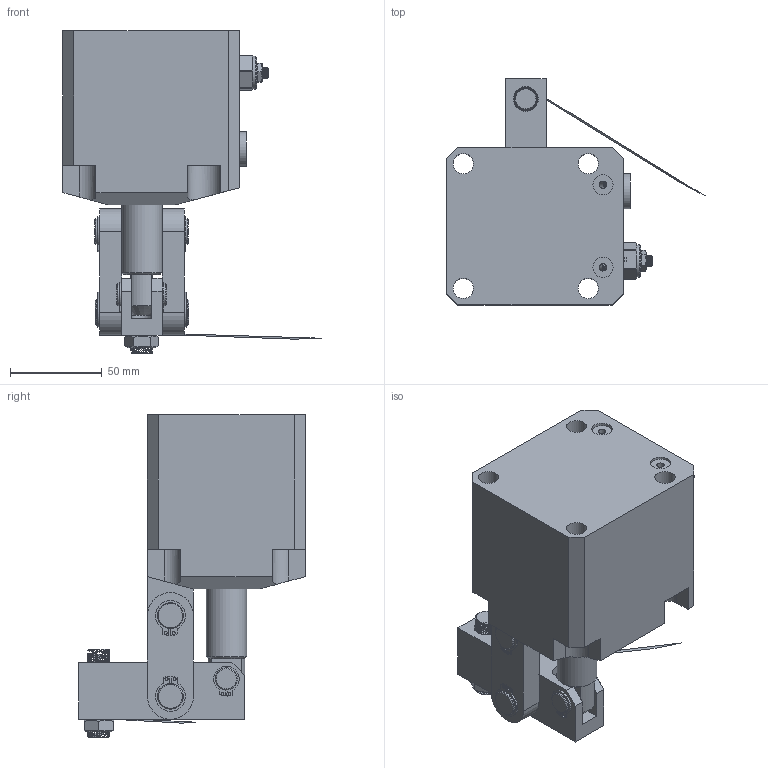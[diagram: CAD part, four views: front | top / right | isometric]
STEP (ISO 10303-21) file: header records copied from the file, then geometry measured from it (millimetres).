
FILE_DESCRIPTION(/* description */ ('STEP AP214'),/* implementation_level */ '2;1');
FILE_NAME(/* name */ 'D:\Vault_2016\Projekty\Clamptek\Hydraulic\CBLU\CBLU-55\STEP\CBLU-55CL.stp',/* time_stamp */ '2021-05-06T12:51:37+02:00',/* author */ ('user'),/* organization */ (''),/* preprocessor_version */ 'ST-DEVELOPER v18.1',/* originating_system */ 'Autodesk Inventor 2021',/* authorisation */ '');
FILE_SCHEMA (('AUTOMOTIVE_DESIGN { 1 0 10303 214 3 1 1 }'));
Products named in the file (13): CBLU-55CL; CBLU-55CL±¾Ìå_1_2; duanxiao; huosaigan_1_1; luogan; luomu; yabi; liangan; kahuang01; changxiao; kahuang; CZL20µ÷ËÙ·§_1_2; ÄÚÁù½Ç¶ÂÍ·×
îÐÂ1-4_1
Assembly tree (18 placements, depth 2):
  CBLU-55CL
    CBLU-55CL±¾Ìå_1_2
    changxiao  x2
    duanxiao
    huosaigan_1_1
    kahuang  x4
    kahuang01  x2
    liangan  x2
    luogan
    luomu
    yabi
    CZL20µ÷ËÙ·§_1_2
    ÄÚÁù½Ç¶ÂÍ·×
îÐÂ1-4_1
Bounding box: 140.64 x 123.5 x 175.89 mm (x, y, z)
Volume: 692775 mm3; surface area: 132096.5 mm2
Topology: 17 solids, 109 shells, 635 faces, 1720 edges, 1219 vertices
Faces by surface type: cylinder 317, plane 192, bspline 78, cone 48
Full cylindrical faces by diameter (mm): 1.479 x4, 1.725 x8, 2.5 x3, 4 x3, 5.3 x1, 6 x14, 7 x1, 7.5 x1, 8 x1, 11 x27, 11.4 x1, 11.5 x6, 11.9 x1, 12 x18, 13 x5, 14 x12, 16.8 x1, 18 x1, 19 x1, 22 x2, 34.209 x1, 34.766 x1, 55 x2
Entity records: 109485 total; most frequent: CARTESIAN_POINT 96162, ORIENTED_EDGE 2692, DIRECTION 2080, EDGE_CURVE 1511, VERTEX_POINT 1079, AXIS2_PLACEMENT_3D 775, B_SPLINE_CURVE_WITH_KNOTS 656, EDGE_LOOP 620
